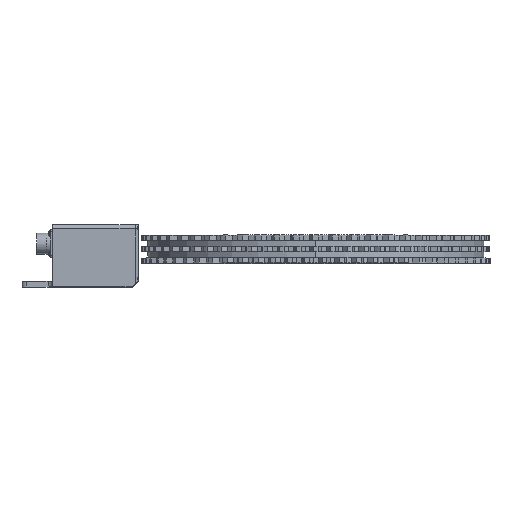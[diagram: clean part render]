
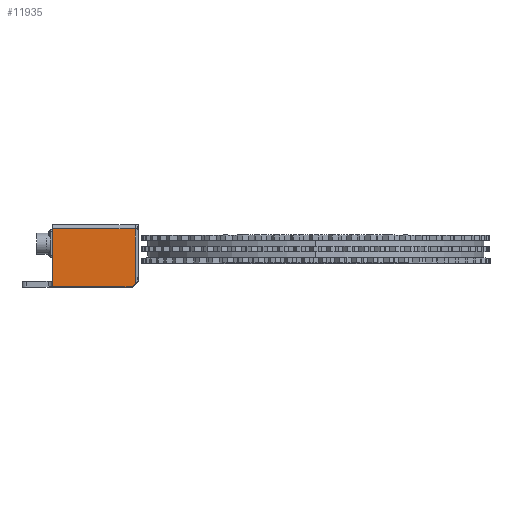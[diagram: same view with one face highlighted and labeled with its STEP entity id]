
A CAD part, top view. The second image highlights one B-rep face of the part: STEP entity #11935.
In plain terms, the highlighted planar face has unit normal (0, 0, 1) as drawn and (1, 0, 0) by its records, which use the part's own axes.
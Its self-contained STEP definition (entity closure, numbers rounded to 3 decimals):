
#1982 = CARTESIAN_POINT ( 'NONE',  ( 90., 56., 40. ) ) ;
#2595 = DIRECTION ( 'NONE',  ( 0., -1., 0. ) ) ;
#7468 = ORIENTED_EDGE ( 'NONE', *, *, #28381, .T. ) ;
#8298 = VERTEX_POINT ( 'NONE', #1982 ) ;
#9245 = ORIENTED_EDGE ( 'NONE', *, *, #38020, .F. ) ;
#9833 = LINE ( 'NONE', #26239, #31381 ) ;
#10048 = CARTESIAN_POINT ( 'NONE',  ( 90., 3., -40. ) ) ;
#11935 = ADVANCED_FACE ( 'NONE', ( #28205 ), #23837, .F. ) ;
#12370 = DIRECTION ( 'NONE',  ( 0., 0., 1. ) ) ;
#15441 = VERTEX_POINT ( 'NONE', #24533 ) ;
#16706 = VECTOR ( 'NONE', #12370, 1000. ) ;
#18069 = CARTESIAN_POINT ( 'NONE',  ( 90., 60., 40. ) ) ;
#18699 = DIRECTION ( 'NONE',  ( 0., 0.707, -0.707 ) ) ;
#21419 = EDGE_CURVE ( 'NONE', #15441, #27343, #37212, .T. ) ;
#23276 = VERTEX_POINT ( 'NONE', #26856 ) ;
#23595 = CARTESIAN_POINT ( 'NONE',  ( 90., 60., -40. ) ) ;
#23837 = PLANE ( 'NONE',  #46154 ) ;
#24533 = CARTESIAN_POINT ( 'NONE',  ( 90., 0., -37. ) ) ;
#25678 = LINE ( 'NONE', #40819, #29246 ) ;
#26239 = CARTESIAN_POINT ( 'NONE',  ( 90., 0., -40. ) ) ;
#26856 = CARTESIAN_POINT ( 'NONE',  ( 90., 56., -40. ) ) ;
#27343 = VERTEX_POINT ( 'NONE', #10048 ) ;
#28205 = FACE_OUTER_BOUND ( 'NONE', #48948, .T. ) ;
#28381 = EDGE_CURVE ( 'NONE', #8298, #33674, #46293, .T. ) ;
#29246 = VECTOR ( 'NONE', #2595, 1000. ) ;
#31381 = VECTOR ( 'NONE', #49599, 1000. ) ;
#31777 = DIRECTION ( 'NONE',  ( -1., 0., 0. ) ) ;
#32081 = CARTESIAN_POINT ( 'NONE',  ( 90., 0., 40. ) ) ;
#33674 = VERTEX_POINT ( 'NONE', #32081 ) ;
#34086 = ORIENTED_EDGE ( 'NONE', *, *, #21419, .T. ) ;
#34470 = DIRECTION ( 'NONE',  ( 0., -1., 0. ) ) ;
#37212 = LINE ( 'NONE', #38204, #41782 ) ;
#37330 = ORIENTED_EDGE ( 'NONE', *, *, #42989, .T. ) ;
#37742 = VECTOR ( 'NONE', #34470, 1000. ) ;
#38020 = EDGE_CURVE ( 'NONE', #23276, #27343, #25678, .T. ) ;
#38204 = CARTESIAN_POINT ( 'NONE',  ( 90., 0., -37. ) ) ;
#39234 = DIRECTION ( 'NONE',  ( 0., 0., 1. ) ) ;
#40819 = CARTESIAN_POINT ( 'NONE',  ( 90., 60., -40. ) ) ;
#41086 = ORIENTED_EDGE ( 'NONE', *, *, #45428, .T. ) ;
#41782 = VECTOR ( 'NONE', #18699, 1000. ) ;
#42989 = EDGE_CURVE ( 'NONE', #33674, #15441, #9833, .T. ) ;
#43426 = CARTESIAN_POINT ( 'NONE',  ( 90., 56., 40. ) ) ;
#45428 = EDGE_CURVE ( 'NONE', #23276, #8298, #50383, .T. ) ;
#46154 = AXIS2_PLACEMENT_3D ( 'NONE', #23595, #31777, #39234 ) ;
#46293 = LINE ( 'NONE', #18069, #37742 ) ;
#48948 = EDGE_LOOP ( 'NONE', ( #37330, #34086, #9245, #41086, #7468 ) ) ;
#49599 = DIRECTION ( 'NONE',  ( 0., 0., -1. ) ) ;
#50383 = LINE ( 'NONE', #43426, #16706 ) ;
